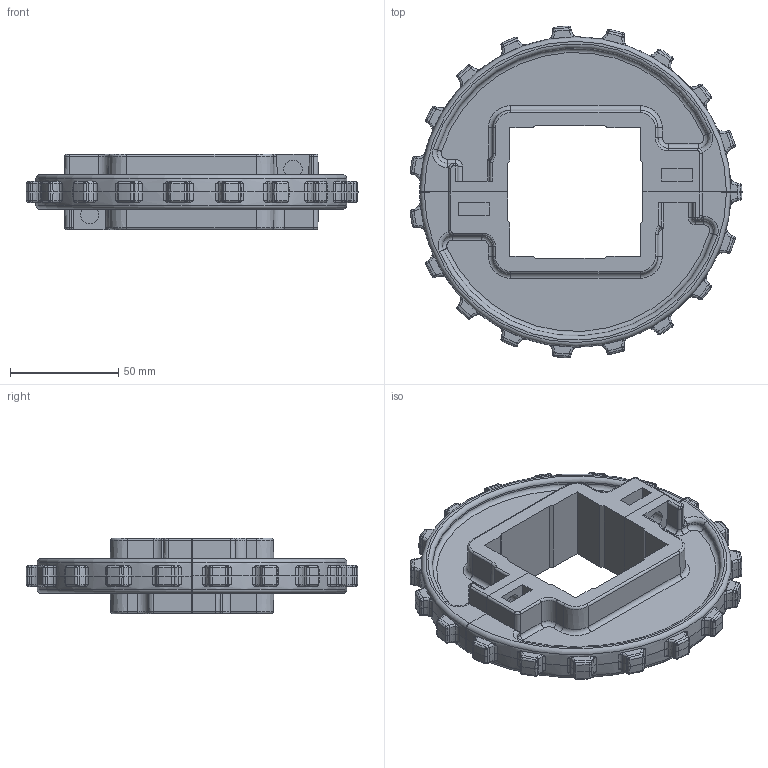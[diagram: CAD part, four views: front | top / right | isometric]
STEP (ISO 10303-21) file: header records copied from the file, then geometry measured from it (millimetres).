
FILE_DESCRIPTION(/* description */ (''),/* implementation_level */ '2;1');
FILE_NAME(/* name */ 'HS-502A-HD-19T.stp',/* time_stamp */ '2024-02-19T15:37:54+08:00',/* author */ (''),/* organization */ (''),/* preprocessor_version */ 'ST-DEVELOPER v15',/* originating_system */ 'SIEMENS PLM Software NX 8.5',/* authorisation */ '');
FILE_SCHEMA (('AP203_CONFIGURATION_CONTROLLED_3D_DESIGN_OF_MECHANICAL_PARTS_AND_ASSEMBLIES_MIM_LF { 1 0 10303 403 2 1 2}'));
Products named in the file (1): Admi2D380351ze1q
Bounding box: 153.54 x 153.5 x 35 mm (x, y, z)
Volume: 197269.7 mm3; surface area: 61830.7 mm2
Topology: 2 solids, 2 shells, 1178 faces, 2872 edges, 1630 vertices
Faces by surface type: cone 344, torus 244, plane 230, bspline 188, cylinder 172
Full cylindrical faces by diameter (mm): 3.1 x4, 3.2 x4, 8.5 x8
Entity records: 60838 total; most frequent: CARTESIAN_POINT 34769, ORIENTED_EDGE 5536, DIRECTION 5192, EDGE_CURVE 2768, AXIS2_PLACEMENT_3D 2105, VERTEX_POINT 1626, EDGE_LOOP 1226, ADVANCED_FACE 1178
